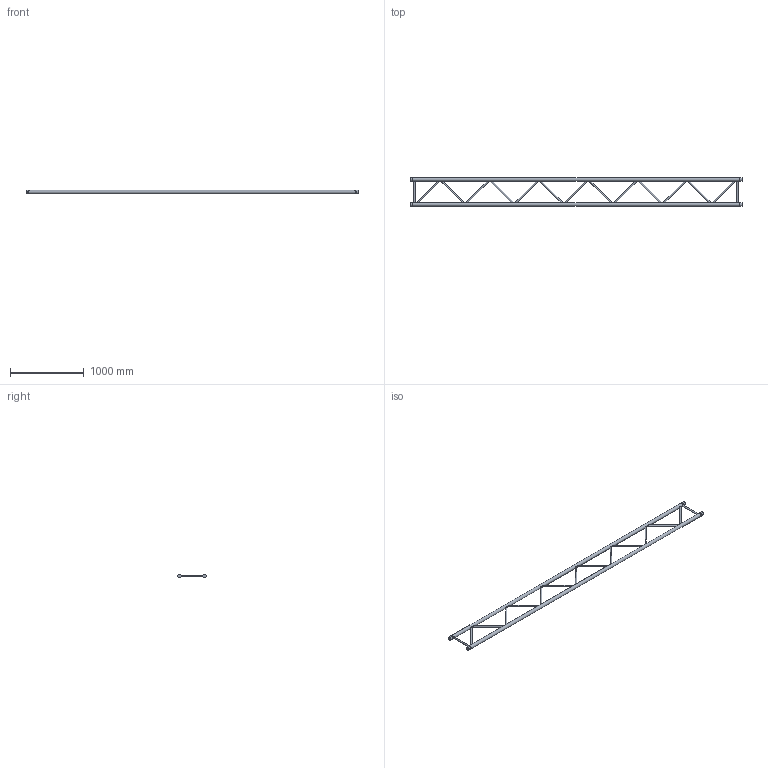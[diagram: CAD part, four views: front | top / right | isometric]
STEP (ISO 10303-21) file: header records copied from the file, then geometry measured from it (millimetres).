
FILE_DESCRIPTION(/* description */ (''),/* implementation_level */ '2;1');
FILE_NAME(/* name */ 'C:\Users\stephan\Desktop\Nieuwe map\H40L\111050161.stp',/* time_stamp */ '2016-09-12T12:55:00+02:00',/* author */ ('Stephan'),/* organization */ (''),/* preprocessor_version */ 'ST-DEVELOPER v15.6',/* originating_system */ 'Autodesk Inventor 2015',/* authorisation */ '');
FILE_SCHEMA (('AUTOMOTIVE_DESIGN { 1 0 10303 214 3 1 1 }'));
Length unit declared in the file: millimetre
Products named in the file (1): 160026989
Bounding box: 4500 x 387.3 x 48.3 mm (x, y, z)
Volume: 5964821.5 mm3; surface area: 2950431.6 mm2
Topology: 17 solids, 19 shells, 85 faces, 134 edges, 91 vertices
Faces by surface type: plane 50, cylinder 31, cone 4
Full cylindrical faces by diameter (mm): 10 x4, 20 x15, 41.8 x4, 42.3 x2, 48.3 x6
Entity records: 2145 total; most frequent: CARTESIAN_POINT 526, DIRECTION 300, ORIENTED_EDGE 172, AXIS2_PLACEMENT_3D 148, EDGE_LOOP 140, STYLED_ITEM 99, FACE_OUTER_BOUND 85, ADVANCED_FACE 85
